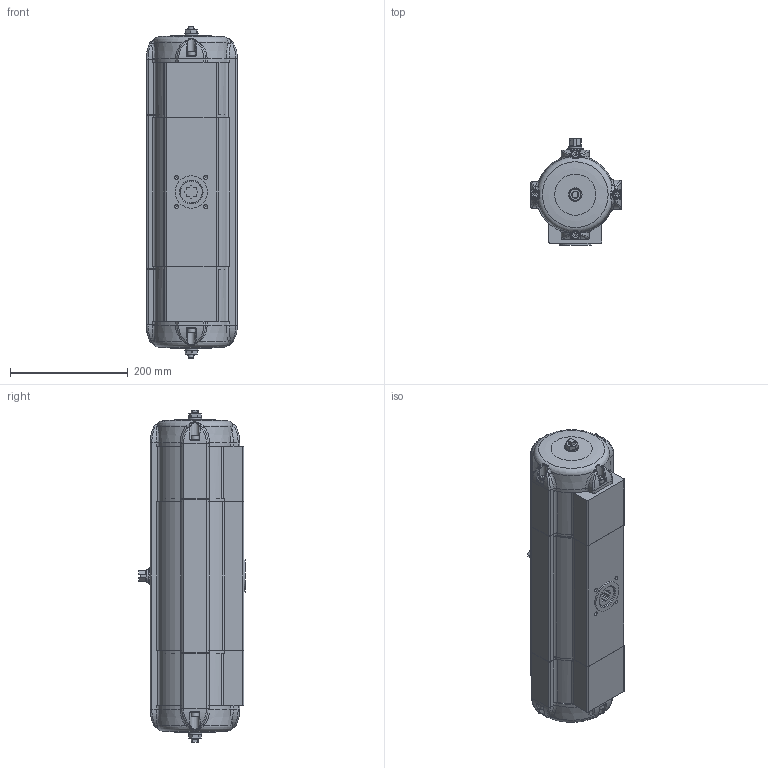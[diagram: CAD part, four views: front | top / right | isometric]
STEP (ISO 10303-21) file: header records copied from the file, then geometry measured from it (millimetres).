
FILE_DESCRIPTION((''),'2;1');
FILE_NAME('C:\Users\war\Desktop\SAF_25-180°_BR03.stp','2018-07-18T07:33:31',('war'),(''),'Autodesk Inventor 2013','Autodesk Inventor 2013','');
FILE_SCHEMA(('AUTOMOTIVE_DESIGN { 1 0 10303 214 1 1 1 1 }'));
Length unit declared in the file: millimetre
Products named in the file (1): ENG-082610_Shrinkwrap_1
Bounding box: 154.5 x 182 x 564.9 mm (x, y, z)
Volume: 3726196.9 mm3; surface area: 869572.3 mm2
Topology: 2 solids, 33 shells, 3120 faces, 8708 edges, 5519 vertices
Faces by surface type: bspline 925, plane 836, cylinder 713, torus 281, cone 253, sphere 112
Full cylindrical faces by diameter (mm): 2 x2, 4.134 x10, 4.917 x1, 5 x6, 6.647 x12, 7 x6, 8 x8, 8.5 x8, 10 x10, 11.445 x3, 12 x4, 13 x8, 16 x12, 16.2 x1, 16.3 x3, 16.5 x1, 16.6 x2, 17.8 x1, 18 x3, 20 x1, 20.4 x2, 20.7 x1, 21.8 x3, 22 x3, 22.1 x1, 23 x2, 26.7 x1, 27 x1, 28 x12, 28.5 x6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
Entity records: 134082 total; most frequent: CARTESIAN_POINT 61073, ORIENTED_EDGE 16092, DIRECTION 12070, EDGE_CURVE 8046, VERTEX_POINT 5352, AXIS2_PLACEMENT_3D 5173, EDGE_LOOP 3542, B_SPLINE_CURVE_WITH_KNOTS 3239
